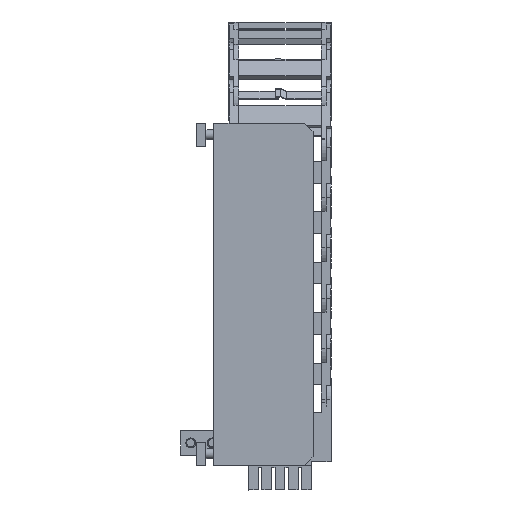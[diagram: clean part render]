
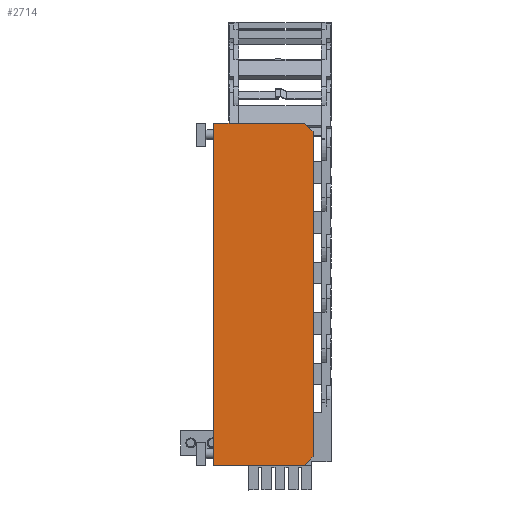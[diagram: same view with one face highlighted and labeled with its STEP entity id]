
A CAD part, front view. The second image highlights one B-rep face of the part: STEP entity #2714.
In plain terms, the highlighted planar face has unit normal (0, -1, 0).
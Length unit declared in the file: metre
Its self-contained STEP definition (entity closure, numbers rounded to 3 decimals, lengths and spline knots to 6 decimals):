
#2714 = ADVANCED_FACE( '', ( #6368 ), #6369, .T. );
#6368 = FACE_OUTER_BOUND( '', #11115, .T. );
#6369 = PLANE( '', #11116 );
#11115 = EDGE_LOOP( '', ( #19193, #19194, #19195, #19196, #19197, #19198 ) );
#11116 = AXIS2_PLACEMENT_3D( '', #19199, #19200, #19201 );
#19193 = ORIENTED_EDGE( '', *, *, #31461, .F. );
#19194 = ORIENTED_EDGE( '', *, *, #31462, .T. );
#19195 = ORIENTED_EDGE( '', *, *, #30591, .F. );
#19196 = ORIENTED_EDGE( '', *, *, #31463, .T. );
#19197 = ORIENTED_EDGE( '', *, *, #30007, .T. );
#19198 = ORIENTED_EDGE( '', *, *, #31464, .T. );
#19199 = CARTESIAN_POINT( '', ( 0.06, 0., 0.207 ) );
#19200 = DIRECTION( '', ( 0., -1., 0. ) );
#19201 = DIRECTION( '', ( 1., 0., 0. ) );
#30007 = EDGE_CURVE( '', #36858, #36859, #36860, .T. );
#30591 = EDGE_CURVE( '', #37840, #37841, #37842, .T. );
#31461 = EDGE_CURVE( '', #39190, #39191, #39192, .T. );
#31462 = EDGE_CURVE( '', #39190, #37841, #39193, .T. );
#31463 = EDGE_CURVE( '', #37840, #36858, #39194, .F. );
#31464 = EDGE_CURVE( '', #36859, #39191, #39195, .T. );
#36858 = VERTEX_POINT( '', #46336 );
#36859 = VERTEX_POINT( '', #46337 );
#36860 = LINE( '', #46338, #46339 );
#37840 = VERTEX_POINT( '', #47689 );
#37841 = VERTEX_POINT( '', #47690 );
#37842 = LINE( '', #47691, #47692 );
#39190 = VERTEX_POINT( '', #49563 );
#39191 = VERTEX_POINT( '', #49564 );
#39192 = LINE( '', #49565, #49566 );
#39193 = LINE( '', #49567, #49568 );
#39194 = LINE( '', #49569, #49570 );
#39195 = LINE( '', #49571, #49572 );
#46336 = CARTESIAN_POINT( '', ( 0.055, 0., 0.207 ) );
#46337 = CARTESIAN_POINT( '', ( 0., 0., 0.207 ) );
#46338 = CARTESIAN_POINT( '', ( 0.06, 0., 0.207 ) );
#46339 = VECTOR( '', #56229, 1. );
#47689 = CARTESIAN_POINT( '', ( 0.06, 0., 0.202 ) );
#47690 = CARTESIAN_POINT( '', ( 0.06, 0., 0.005 ) );
#47691 = CARTESIAN_POINT( '', ( 0.06, 0., 0.207 ) );
#47692 = VECTOR( '', #56945, 1. );
#49563 = CARTESIAN_POINT( '', ( 0.055, 0., 0. ) );
#49564 = CARTESIAN_POINT( '', ( 0., 0., 0. ) );
#49565 = CARTESIAN_POINT( '', ( 0.06, 0., 0. ) );
#49566 = VECTOR( '', #57979, 1. );
#49567 = CARTESIAN_POINT( '', ( 0.161, 0., 0.106 ) );
#49568 = VECTOR( '', #57980, 1. );
#49569 = CARTESIAN_POINT( '', ( 0.0575, 0., 0.2045 ) );
#49570 = VECTOR( '', #57981, 1. );
#49571 = CARTESIAN_POINT( '', ( 0., 0., 0.207 ) );
#49572 = VECTOR( '', #57982, 1. );
#56229 = DIRECTION( '', ( -1., 0., 0. ) );
#56945 = DIRECTION( '', ( 0., 0., -1. ) );
#57979 = DIRECTION( '', ( -1., 0., 0. ) );
#57980 = DIRECTION( '', ( 0.707, 0., 0.707 ) );
#57981 = DIRECTION( '', ( 0.707, 0., -0.707 ) );
#57982 = DIRECTION( '', ( 0., 0., -1. ) );
